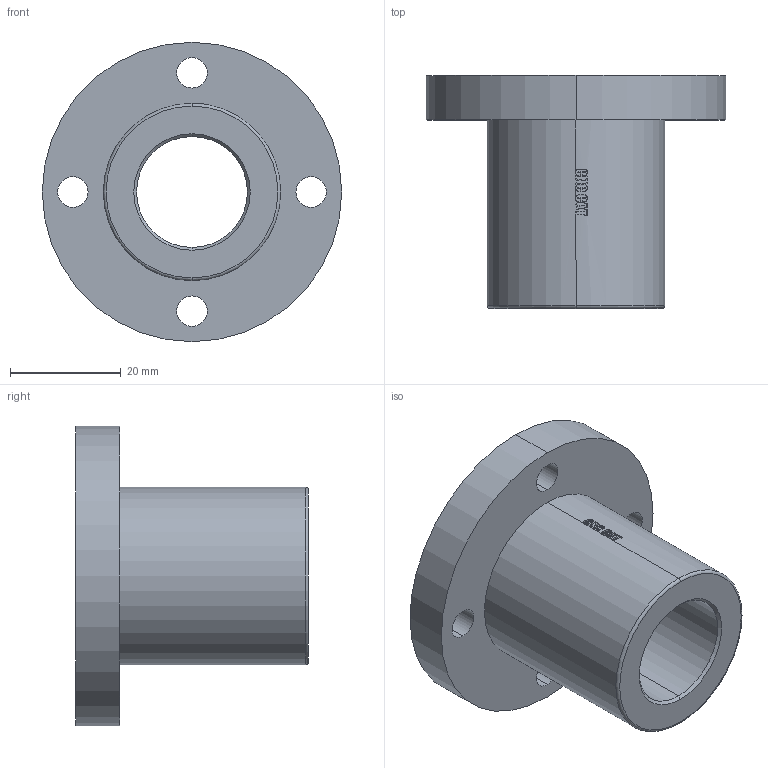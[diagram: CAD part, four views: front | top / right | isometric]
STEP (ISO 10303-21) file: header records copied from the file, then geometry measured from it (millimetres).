
FILE_DESCRIPTION (( 'STEP AP203' ), '1' );
FILE_NAME ('LMF20UU.STEP', '2017-08-10T13:18:28', ( '' ), ( '' ), 'SwSTEP 2.0', 'SolidWorks 2017', '' );
FILE_SCHEMA (( 'CONFIG_CONTROL_DESIGN' ));
Length unit declared in the file: millimetre
Products named in the file (1): LMF20UU
Bounding box: 54 x 42 x 54 mm (x, y, z)
Volume: 31694.6 mm3; surface area: 11704.7 mm2
Topology: 1 solids, 1 shells, 110 faces, 304 edges, 198 vertices
Faces by surface type: plane 48, bspline 32, cylinder 26, cone 2, torus 2
Entity records: 7297 total; most frequent: CARTESIAN_POINT 4661, ORIENTED_EDGE 608, DIRECTION 421, EDGE_CURVE 304, VERTEX_POINT 198, AXIS2_PLACEMENT_3D 165, B_SPLINE_CURVE_WITH_KNOTS 127, EDGE_LOOP 122
